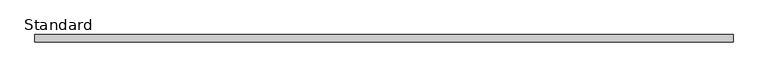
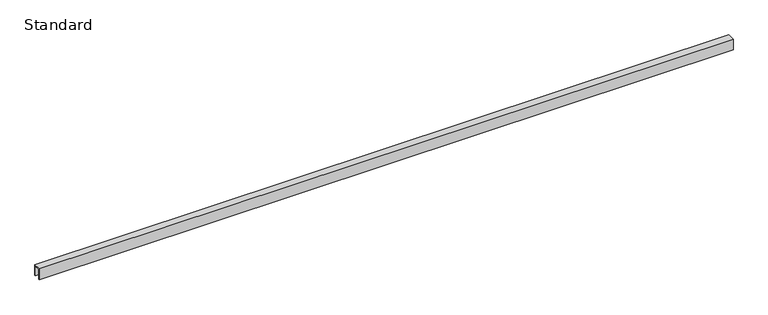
"""IFC4 building model written with IfcOpenShell, lengths in millimetres: furniture geometry, X_Partition-Channel-Duracube-Ceiling : Standard."""

from ifc_helpers import new_model, si_unit, frame, origin, place, context, project, spatial, polyline, outline, extrude, source, transform, mapped, element, save


def standard_67804c96(model_context):
    return source(origin(), model_context, "Body", "SweptSolid", [
        extrude(outline(polyline([(0.0, 0.0), (-2.0, 0.0), (-2.0, 24.0), (-15.0, 24.0), (-15.0, 0.0), (-17.0, 0.0), (-17.0, 26.0), (0.0, 26.0), (0.0, 0.0)])), frame((-751.2996736, 0.0, 0.0), z_axis=(1.0, 0.0, 0.0), x_axis=(0.0, 1.0, 0.0)), (0.0, 0.0, 1.0), 1592.0),
    ])


if __name__ == "__main__":
    model = new_model("IFC4")
    model_context = context("Model", 3, world=origin())
    ifc_project = project(units=[si_unit("LENGTHUNIT", "METRE", prefix="MILLI")], contexts=[model_context])
    site = spatial("IfcSite", under=ifc_project)
    building = spatial("IfcBuilding", under=site)
    placement = place(None, origin())
    standard_shape = standard_67804c96(model_context)
    element("IfcFurniture", 1, ObjectType="X_Partition-Channel-Duracube-Ceiling : Standard", at=placement, inside=building, context=model_context, shape_type="MappedRepresentation", body=[
        mapped(standard_shape, transform((0.0, 0.0, 0.0), x_axis=(1.0, 0.0, 0.0), y_axis=(0.0, 1.0, 0.0), z_axis=(0.0, 0.0, 1.0))),
    ])
    save(model, "model.ifc")
